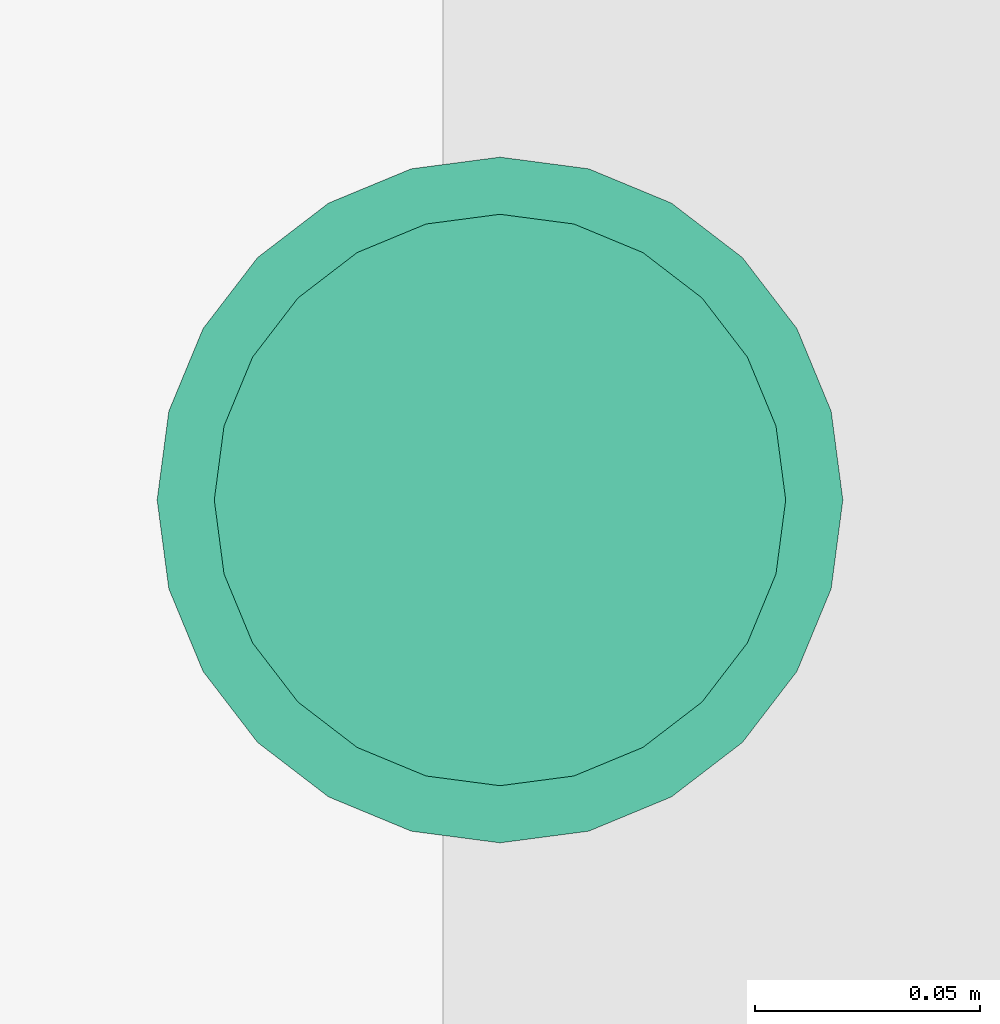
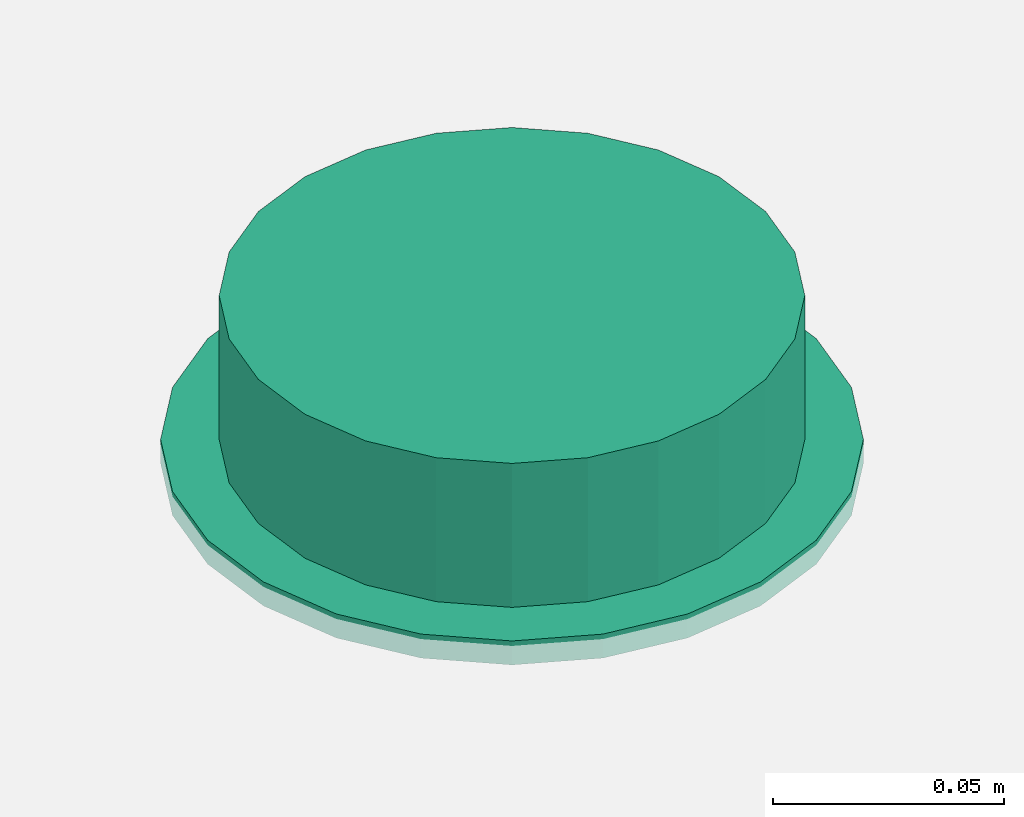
# One storey, part 39 of 81: 1 flow terminal.
"""IFC2X3 building model written with IfcOpenShell, lengths in feet."""

from ifc_helpers import new_model, entity, si_unit, converted_unit, derived_unit, direction, frame, origin, place, context, subcontext, project, spatial, faceted_brep, source, transform, mapped, material, material_list, type_object, type_shapes, element, save


model = new_model("IFC2X3")

# Units and contexts
model_context = context("Model", 3, precision=0.0001, world=origin(), true_north=direction((6.12303176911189e-17, 1.0)))
body_context = subcontext(model_context, "Body", "Model", "MODEL_VIEW")
ifc_project = project(units=[converted_unit("LENGTHUNIT", "FOOT", entity("IfcRatioMeasure", 0.3048), si_unit("LENGTHUNIT", "METRE"), dimensions=[1, 0, 0, 0, 0, 0, 0]), converted_unit("AREAUNIT", "SQUARE FOOT", entity("IfcRatioMeasure", 0.09290304), si_unit("AREAUNIT", "SQUARE_METRE"), dimensions=[2, 0, 0, 0, 0, 0, 0]), converted_unit("VOLUMEUNIT", "CUBIC FOOT", entity("IfcRatioMeasure", 0.028316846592), si_unit("VOLUMEUNIT", "CUBIC_METRE"), dimensions=[3, 0, 0, 0, 0, 0, 0]), converted_unit("PLANEANGLEUNIT", "DEGREE", entity("IfcRatioMeasure", 0.0174532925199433), si_unit("PLANEANGLEUNIT", "RADIAN"), dimensions=[0, 0, 0, 0, 0, 0, 0]), si_unit("MASSUNIT", "GRAM", prefix="KILO"), derived_unit("MASSDENSITYUNIT", [(si_unit("MASSUNIT", "GRAM", prefix="KILO"), 1), (si_unit("LENGTHUNIT", "METRE"), -3)]), derived_unit("MOMENTOFINERTIAUNIT", [(si_unit("LENGTHUNIT", "METRE"), 4)]), si_unit("TIMEUNIT", "SECOND"), si_unit("FREQUENCYUNIT", "HERTZ"), si_unit("THERMODYNAMICTEMPERATUREUNIT", "DEGREE_CELSIUS"), derived_unit("THERMALTRANSMITTANCEUNIT", [(si_unit("MASSUNIT", "GRAM", prefix="KILO"), 1), (si_unit("THERMODYNAMICTEMPERATUREUNIT", "KELVIN"), -1), (si_unit("TIMEUNIT", "SECOND"), -3)]), derived_unit("VOLUMETRICFLOWRATEUNIT", [(si_unit("LENGTHUNIT", "METRE"), 3), (si_unit("TIMEUNIT", "SECOND"), -1)]), si_unit("ELECTRICCURRENTUNIT", "AMPERE"), si_unit("ELECTRICVOLTAGEUNIT", "VOLT"), si_unit("POWERUNIT", "WATT"), si_unit("FORCEUNIT", "NEWTON"), si_unit("ILLUMINANCEUNIT", "LUX"), si_unit("LUMINOUSFLUXUNIT", "LUMEN"), si_unit("LUMINOUSINTENSITYUNIT", "CANDELA"), derived_unit("USERDEFINED", [(si_unit("MASSUNIT", "GRAM", prefix="KILO"), -1), (si_unit("LENGTHUNIT", "METRE"), -2), (si_unit("TIMEUNIT", "SECOND"), 3), (si_unit("LUMINOUSFLUXUNIT", "LUMEN"), 1)]), derived_unit("LINEARVELOCITYUNIT", [(si_unit("LENGTHUNIT", "METRE"), 1), (si_unit("TIMEUNIT", "SECOND"), -1)]), si_unit("PRESSUREUNIT", "PASCAL"), derived_unit("USERDEFINED", [(si_unit("LENGTHUNIT", "METRE"), -2), (si_unit("MASSUNIT", "GRAM", prefix="KILO"), 1), (si_unit("TIMEUNIT", "SECOND"), -2)]), derived_unit("LINEARFORCEUNIT", [(si_unit("MASSUNIT", "GRAM", prefix="KILO"), 1), (si_unit("LENGTHUNIT", "METRE"), 1), (si_unit("TIMEUNIT", "SECOND"), -2), (si_unit("LENGTHUNIT", "METRE"), -1)]), derived_unit("PLANARFORCEUNIT", [(si_unit("MASSUNIT", "GRAM", prefix="KILO"), 1), (si_unit("LENGTHUNIT", "METRE"), 1), (si_unit("TIMEUNIT", "SECOND"), -2), (si_unit("LENGTHUNIT", "METRE"), -2)])], contexts=[model_context])

# Site, building, storey
site_placement = place(None, origin())
site = spatial("IfcSite", under=ifc_project, at=site_placement, Name="Default", CompositionType="ELEMENT")
building_placement = place(site_placement, origin())
building = spatial("IfcBuilding", under=site, at=building_placement, CompositionType="ELEMENT")
storey_placement = place(building_placement, origin())
storey = spatial("IfcBuildingStorey", under=building, at=storey_placement, Name="First floor", CompositionType="ELEMENT", Elevation=0.0)

# Flow terminal
ifc_material_1 = material(Name="Default New Material")
ifc_material_2 = material(Name="Glass, White, High Luminance")
ifc_material_list_1 = material_list([ifc_material_1, ifc_material_2])
ifc_material_list_2 = material_list([ifc_material_1, ifc_material_2])
light_fixture_type = type_object("IfcLightFixtureType", Name="M_Recessed Lamp - Round - LED:Light 2", PredefinedType="NOTDEFINED", material=ifc_material_list_2)
shared_shape = source(origin(), body_context, "Body", "Brep", [
    faceted_brep([(-0.124999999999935, 0.216506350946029, 0.0208333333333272), (-0.176776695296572, 0.176776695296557, 0.0208333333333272), (-0.0833333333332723, 0.144337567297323, 0.0208333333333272), (-0.0431365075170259, 0.160987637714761, 0.0208333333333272), (-0.0647047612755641, 0.241481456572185, 0.0208333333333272), (-0.117851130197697, 0.117851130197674, 0.0208333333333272), (-0.216506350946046, 0.12499999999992, 0.0208333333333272), (-0.144337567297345, 0.0833333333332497, 0.0208333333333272), (-0.160987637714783, 0.0431365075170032, 0.0208333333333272), (-0.241481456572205, 0.0647047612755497, 0.0208333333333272), (-0.166666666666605, 0.0, 0.0208333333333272), (-0.249999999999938, 0.0, 0.0208333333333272), (-0.160987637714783, -0.0431365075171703, 0.0208333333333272), (-0.241481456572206, -0.0647047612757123, 0.0208333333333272), (-0.144337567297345, -0.0833333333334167, 0.0208333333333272), (-0.216506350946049, -0.125000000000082, 0.0208333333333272), (-0.117851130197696, -0.117851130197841, 0.0208333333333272), (-0.176776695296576, -0.176776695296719, 0.0208333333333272), (-0.0833333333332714, -0.14433756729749, 0.0208333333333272), (-0.12499999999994, -0.216506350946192, 0.0208333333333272), (-0.0431365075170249, -0.160987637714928, 0.0208333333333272), (-0.0647047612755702, -0.24148145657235, 0.0208333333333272), (0.0, -0.16666666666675, 0.0208333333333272), (0.0, -0.250000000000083, 0.0208333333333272), (0.0431365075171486, -0.160987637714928, 0.0208333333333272), (0.0647047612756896, -0.241481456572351, 0.0208333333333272), (0.0833333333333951, -0.144337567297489, 0.0208333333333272), (0.12500000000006, -0.216506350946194, 0.0208333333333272), (0.11785113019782, -0.117851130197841, 0.0208333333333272), (0.176776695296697, -0.176776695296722, 0.0208333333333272), (0.144337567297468, -0.0833333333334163, 0.0208333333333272), (0.21650635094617, -0.125000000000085, 0.0208333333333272), (0.241481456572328, -0.0647047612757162, 0.0208333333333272), (0.160987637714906, -0.0431365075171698, 0.0208333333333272), (0.250000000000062, 0.0, 0.0208333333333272), (0.166666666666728, 0.0, 0.0208333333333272), (0.241481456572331, 0.06470476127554, 0.0208333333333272), (0.160987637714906, 0.0431365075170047, 0.0208333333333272), (0.216506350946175, 0.124999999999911, 0.0208333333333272), (0.144337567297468, 0.0833333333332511, 0.0208333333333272), (0.176776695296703, 0.176776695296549, 0.0208333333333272), (0.117851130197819, 0.117851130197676, 0.0208333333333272), (0.125000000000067, 0.216506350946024, 0.0208333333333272), (0.0833333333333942, 0.144337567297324, 0.0208333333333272), (0.0647047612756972, 0.241481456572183, 0.0208333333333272), (0.0431365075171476, 0.160987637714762, 0.0208333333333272), (0.0, 0.249999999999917, 0.0208333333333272), (0.0, 0.166666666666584, 0.0208333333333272), (-0.12499999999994, -0.216506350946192, 0.0), (-0.176776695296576, -0.176776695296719, 0.0), (-0.0833333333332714, -0.14433756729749, 0.0), (-0.0431365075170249, -0.160987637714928, 0.0), (-0.0647047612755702, -0.24148145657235, 0.0), (-0.117851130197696, -0.117851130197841, 0.0), (-0.216506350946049, -0.125000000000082, 0.0), (-0.144337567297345, -0.0833333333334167, 0.0), (-0.160987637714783, -0.0431365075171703, 0.0), (-0.241481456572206, -0.0647047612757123, 0.0), (-0.166666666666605, 0.0, 0.0), (-0.249999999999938, 0.0, 0.0), (-0.160987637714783, 0.0431365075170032, 0.0), (-0.241481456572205, 0.0647047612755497, 0.0), (-0.144337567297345, 0.0833333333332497, 0.0), (-0.216506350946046, 0.12499999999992, 0.0), (-0.117851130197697, 0.117851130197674, 0.0), (-0.176776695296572, 0.176776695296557, 0.0), (-0.0833333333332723, 0.144337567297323, 0.0), (-0.124999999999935, 0.216506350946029, 0.0), (-0.0431365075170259, 0.160987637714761, 0.0), (-0.0647047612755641, 0.241481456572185, 0.0), (0.0, 0.166666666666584, 0.0), (0.0, 0.249999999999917, 0.0), (0.0431365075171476, 0.160987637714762, 0.0), (0.0647047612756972, 0.241481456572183, 0.0), (0.0833333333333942, 0.144337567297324, 0.0), (0.125000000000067, 0.216506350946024, 0.0), (0.117851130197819, 0.117851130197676, 0.0), (0.176776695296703, 0.176776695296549, 0.0), (0.144337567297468, 0.0833333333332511, 0.0), (0.216506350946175, 0.124999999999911, 0.0), (0.241481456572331, 0.06470476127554, 0.0), (0.160987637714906, 0.0431365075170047, 0.0), (0.250000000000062, 0.0, 0.0), (0.166666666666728, 0.0, 0.0), (0.241481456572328, -0.0647047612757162, 0.0), (0.160987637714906, -0.0431365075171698, 0.0), (0.21650635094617, -0.125000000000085, 0.0), (0.144337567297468, -0.0833333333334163, 0.0), (0.176776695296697, -0.176776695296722, 0.0), (0.11785113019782, -0.117851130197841, 0.0), (0.12500000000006, -0.216506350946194, 0.0), (0.0833333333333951, -0.144337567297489, 0.0), (0.0647047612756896, -0.241481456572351, 0.0), (0.0431365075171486, -0.160987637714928, 0.0), (0.0, -0.250000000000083, 0.0), (0.0, -0.16666666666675, 0.0)], [[[0, 1, 2]], [[0, 2, 3]], [[3, 4, 0]], [[2, 1, 5]], [[6, 5, 1]], [[7, 5, 6]], [[8, 7, 6]], [[8, 6, 9]], [[8, 9, 10]], [[10, 9, 11]], [[12, 10, 11]], [[12, 11, 13]], [[14, 12, 13]], [[14, 13, 15]], [[16, 14, 15]], [[15, 17, 16]], [[17, 18, 16]], [[18, 17, 19]], [[18, 19, 20]], [[21, 20, 19]], [[20, 21, 22]], [[22, 21, 23]], [[23, 24, 22]], [[24, 23, 25]], [[24, 25, 26]], [[27, 26, 25]], [[27, 28, 26]], [[27, 29, 28]], [[30, 28, 29]], [[31, 30, 29]], [[32, 30, 31]], [[33, 30, 32]], [[33, 32, 34]], [[34, 35, 33]], [[36, 35, 34]], [[36, 37, 35]], [[37, 36, 38]], [[39, 37, 38]], [[39, 38, 40]], [[39, 40, 41]], [[40, 42, 41]], [[41, 42, 43]], [[43, 42, 44]], [[44, 45, 43]], [[46, 45, 44]], [[4, 47, 46]], [[45, 46, 47]], [[4, 3, 47]], [[48, 49, 50]], [[48, 50, 51]], [[51, 52, 48]], [[50, 49, 53]], [[54, 53, 49]], [[55, 53, 54]], [[56, 55, 54]], [[56, 54, 57]], [[56, 57, 58]], [[58, 57, 59]], [[60, 58, 59]], [[60, 59, 61]], [[62, 60, 61]], [[62, 61, 63]], [[64, 62, 63]], [[63, 65, 64]], [[65, 66, 64]], [[66, 65, 67]], [[66, 67, 68]], [[69, 68, 67]], [[68, 69, 70]], [[70, 69, 71]], [[71, 72, 70]], [[72, 71, 73]], [[72, 73, 74]], [[75, 74, 73]], [[75, 76, 74]], [[75, 77, 76]], [[78, 76, 77]], [[79, 78, 77]], [[80, 78, 79]], [[81, 78, 80]], [[81, 80, 82]], [[82, 83, 81]], [[84, 83, 82]], [[84, 85, 83]], [[85, 84, 86]], [[87, 85, 86]], [[87, 86, 88]], [[87, 88, 89]], [[88, 90, 89]], [[89, 90, 91]], [[91, 90, 92]], [[92, 93, 91]], [[94, 93, 92]], [[52, 95, 94]], [[93, 94, 95]], [[52, 51, 95]], [[10, 58, 60, 8]], [[8, 60, 62, 7]], [[2, 5, 64, 66]], [[62, 64, 5, 7]], [[3, 2, 66, 68]], [[70, 47, 3, 68]], [[45, 72, 74, 43]], [[43, 74, 76, 41]], [[37, 39, 78, 81]], [[76, 78, 39, 41]], [[35, 37, 81, 83]], [[45, 47, 70, 72]], [[35, 83, 85, 33]], [[33, 85, 87, 30]], [[26, 28, 89, 91]], [[87, 89, 28, 30]], [[24, 26, 91, 93]], [[95, 22, 24, 93]], [[20, 51, 50, 18]], [[18, 50, 53, 16]], [[12, 14, 55, 56]], [[53, 55, 14, 16]], [[10, 12, 56, 58]], [[20, 22, 95, 51]], [[57, 13, 11, 59]], [[54, 15, 13, 57]], [[19, 17, 49, 48]], [[54, 49, 17, 15]], [[21, 19, 48, 52]], [[23, 21, 52, 94]], [[92, 25, 23, 94]], [[90, 27, 25, 92]], [[31, 29, 88, 86]], [[90, 88, 29, 27]], [[32, 31, 86, 84]], [[34, 32, 84, 82]], [[80, 36, 34, 82]], [[79, 38, 36, 80]], [[42, 40, 77, 75]], [[79, 77, 40, 38]], [[44, 42, 75, 73]], [[46, 44, 73, 71]], [[69, 4, 46, 71]], [[67, 0, 4, 69]], [[6, 1, 65, 63]], [[67, 65, 1, 0]], [[9, 6, 63, 61]], [[11, 9, 61, 59]]]),
    faceted_brep([(0.0431365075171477, -0.160987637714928, 0.0208333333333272), (0.0833333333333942, -0.14433756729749, 0.0208333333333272), (0.117851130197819, -0.117851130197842, 0.0208333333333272), (0.144337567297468, -0.0833333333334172, 0.0208333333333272), (0.160987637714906, -0.0431365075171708, 0.0208333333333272), (0.166666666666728, 0.0, 0.0208333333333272), (0.160987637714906, 0.0431365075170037, 0.0208333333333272), (0.144337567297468, 0.0833333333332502, 0.0208333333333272), (0.11785113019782, 0.117851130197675, 0.0208333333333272), (0.0833333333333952, 0.144337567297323, 0.0208333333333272), (0.0431365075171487, 0.160987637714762, 0.0208333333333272), (0.0, 0.166666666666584, 0.0208333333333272), (-0.0431365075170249, 0.160987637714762, 0.0208333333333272), (-0.0833333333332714, 0.144337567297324, 0.0208333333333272), (-0.117851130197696, 0.117851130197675, 0.0208333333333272), (-0.144337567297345, 0.0833333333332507, 0.0208333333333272), (-0.160987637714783, 0.0431365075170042, 0.0208333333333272), (-0.166666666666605, 0.0, 0.0208333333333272), (-0.160987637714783, -0.0431365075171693, 0.0208333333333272), (-0.144337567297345, -0.0833333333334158, 0.0208333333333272), (-0.117851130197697, -0.117851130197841, 0.0208333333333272), (-0.0833333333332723, -0.144337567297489, 0.0208333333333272), (-0.0431365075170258, -0.160987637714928, 0.0208333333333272), (0.0, -0.16666666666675, 0.0208333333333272), (0.0431365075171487, 0.160987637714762, 0.0), (0.0833333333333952, 0.144337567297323, 0.0), (0.11785113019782, 0.117851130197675, 0.0), (0.144337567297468, 0.0833333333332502, 0.0), (0.160987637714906, 0.0431365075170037, 0.0), (0.166666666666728, 0.0, 0.0), (0.160987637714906, -0.0431365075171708, 0.0), (0.144337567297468, -0.0833333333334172, 0.0), (0.117851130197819, -0.117851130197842, 0.0), (0.0833333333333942, -0.14433756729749, 0.0), (0.0431365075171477, -0.160987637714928, 0.0), (0.0, -0.16666666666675, 0.0), (-0.0431365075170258, -0.160987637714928, 0.0), (-0.0833333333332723, -0.144337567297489, 0.0), (-0.117851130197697, -0.117851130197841, 0.0), (-0.144337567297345, -0.0833333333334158, 0.0), (-0.160987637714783, -0.0431365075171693, 0.0), (-0.166666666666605, 0.0, 0.0), (-0.160987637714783, 0.0431365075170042, 0.0), (-0.144337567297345, 0.0833333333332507, 0.0), (-0.117851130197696, 0.117851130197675, 0.0), (-0.0833333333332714, 0.144337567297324, 0.0), (-0.0431365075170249, 0.160987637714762, 0.0), (0.0, 0.166666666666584, 0.0)], [[[0, 1, 2, 3, 4, 5, 6, 7, 8, 9, 10, 11, 12, 13, 14, 15, 16, 17, 18, 19, 20, 21, 22, 23]], [[24, 25, 26, 27, 28, 29, 30, 31, 32, 33, 34, 35, 36, 37, 38, 39, 40, 41, 42, 43, 44, 45, 46, 47]], [[40, 18, 17, 41]], [[39, 19, 18, 40]], [[21, 20, 38, 37]], [[39, 38, 20, 19]], [[22, 21, 37, 36]], [[23, 22, 36, 35]], [[34, 0, 23, 35]], [[33, 1, 0, 34]], [[3, 2, 32, 31]], [[33, 32, 2, 1]], [[4, 3, 31, 30]], [[5, 4, 30, 29]], [[28, 6, 5, 29]], [[27, 7, 6, 28]], [[9, 8, 26, 25]], [[27, 26, 8, 7]], [[10, 9, 25, 24]], [[11, 10, 24, 47]], [[46, 12, 11, 47]], [[45, 13, 12, 46]], [[15, 14, 44, 43]], [[45, 44, 14, 13]], [[16, 15, 43, 42]], [[17, 16, 42, 41]]]),
    faceted_brep([(0.0, -0.16666666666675, -0.104166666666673), (0.0431365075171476, -0.160987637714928, -0.104166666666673), (0.0833333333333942, -0.14433756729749, -0.104166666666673), (0.117851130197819, -0.117851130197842, -0.104166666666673), (0.144337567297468, -0.0833333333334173, -0.104166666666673), (0.160987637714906, -0.0431365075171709, -0.104166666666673), (0.166666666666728, 0.0, -0.104166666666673), (0.160987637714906, 0.0431365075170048, -0.104166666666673), (0.144337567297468, 0.0833333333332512, -0.104166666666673), (0.117851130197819, 0.117851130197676, -0.104166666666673), (0.0833333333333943, 0.144337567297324, -0.104166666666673), (0.0431365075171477, 0.160987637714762, -0.104166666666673), (0.0, 0.166666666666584, -0.104166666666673), (-0.0431365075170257, 0.160987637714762, -0.104166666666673), (-0.0833333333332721, 0.144337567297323, -0.104166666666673), (-0.117851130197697, 0.117851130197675, -0.104166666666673), (-0.144337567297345, 0.0833333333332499, -0.104166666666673), (-0.160987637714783, 0.0431365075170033, -0.104166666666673), (-0.166666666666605, 0.0, -0.104166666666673), (-0.160987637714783, -0.0431365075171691, -0.104166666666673), (-0.144337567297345, -0.0833333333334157, -0.104166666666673), (-0.117851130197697, -0.11785113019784, -0.104166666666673), (-0.0833333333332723, -0.144337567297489, -0.104166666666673), (-0.0431365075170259, -0.160987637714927, -0.104166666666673), (0.0, 0.20833333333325, -0.125000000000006), (0.0539206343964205, 0.201234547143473, -0.125000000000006), (0.104166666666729, 0.180421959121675, -0.125000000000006), (0.147313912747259, 0.147313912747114, -0.125000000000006), (0.18042195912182, 0.104166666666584, -0.125000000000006), (0.201234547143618, 0.0539206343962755, -0.125000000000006), (0.208333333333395, 0.0, -0.125000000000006), (0.201234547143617, -0.0539206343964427, -0.125000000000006), (0.180421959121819, -0.104166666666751, -0.125000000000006), (0.147313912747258, -0.147313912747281, -0.125000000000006), (0.104166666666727, -0.180421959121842, -0.125000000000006), (0.0539206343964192, -0.201234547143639, -0.125000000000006), (0.0, -0.208333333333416, -0.125000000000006), (-0.0539206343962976, -0.201234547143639, -0.125000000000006), (-0.104166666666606, -0.180421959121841, -0.125000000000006), (-0.147313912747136, -0.14731391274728, -0.125000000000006), (-0.180421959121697, -0.104166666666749, -0.125000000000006), (-0.201234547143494, -0.0539206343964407, -0.125000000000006), (-0.208333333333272, 0.0, -0.125000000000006), (-0.201234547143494, 0.0539206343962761, -0.125000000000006), (-0.180421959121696, 0.104166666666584, -0.125000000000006), (-0.147313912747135, 0.147313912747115, -0.125000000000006), (-0.104166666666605, 0.180421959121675, -0.125000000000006), (-0.0539206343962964, 0.201234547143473, -0.125000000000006), (-0.201234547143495, -0.0539206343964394, -0.104166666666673), (-0.201234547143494, -0.0539206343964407, 0.0), (-0.208333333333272, 0.0, 0.0), (-0.208333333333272, 0.0, -0.104166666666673), (-0.180421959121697, -0.104166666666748, -0.104166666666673), (-0.180421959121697, -0.104166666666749, 0.0), (-0.104166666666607, -0.18042195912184, -0.104166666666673), (-0.104166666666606, -0.180421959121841, 0.0), (-0.147313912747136, -0.14731391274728, 0.0), (-0.147313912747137, -0.147313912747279, -0.104166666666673), (-0.0539206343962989, -0.201234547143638, -0.104166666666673), (-0.0539206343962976, -0.201234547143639, 0.0), (0.0, -0.208333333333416, -0.104166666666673), (0.0, -0.208333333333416, 0.0), (0.053920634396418, -0.201234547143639, -0.104166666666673), (0.0539206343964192, -0.201234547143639, 0.0), (0.104166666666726, -0.180421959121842, -0.104166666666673), (0.104166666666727, -0.180421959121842, 0.0), (0.180421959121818, -0.104166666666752, -0.104166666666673), (0.180421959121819, -0.104166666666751, 0.0), (0.147313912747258, -0.147313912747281, 0.0), (0.147313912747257, -0.147313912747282, -0.104166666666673), (0.201234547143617, -0.0539206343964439, -0.104166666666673), (0.201234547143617, -0.0539206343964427, 0.0), (0.208333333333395, 0.0, -0.104166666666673), (0.208333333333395, 0.0, 0.0), (0.201234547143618, 0.0539206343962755, -0.104166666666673), (0.201234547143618, 0.0539206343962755, 0.0), (0.18042195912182, 0.104166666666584, -0.104166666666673), (0.18042195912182, 0.104166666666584, 0.0), (0.104166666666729, 0.180421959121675, -0.104166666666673), (0.104166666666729, 0.180421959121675, 0.0), (0.147313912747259, 0.147313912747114, 0.0), (0.147313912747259, 0.147313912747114, -0.104166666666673), (0.0539206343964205, 0.201234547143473, -0.104166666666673), (0.0539206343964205, 0.201234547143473, 0.0), (0.0, 0.20833333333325, -0.104166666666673), (0.0, 0.20833333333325, 0.0), (-0.0539206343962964, 0.201234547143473, -0.104166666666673), (-0.0539206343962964, 0.201234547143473, 0.0), (-0.104166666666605, 0.180421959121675, -0.104166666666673), (-0.104166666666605, 0.180421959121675, 0.0), (-0.180421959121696, 0.104166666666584, -0.104166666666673), (-0.180421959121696, 0.104166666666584, 0.0), (-0.147313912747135, 0.147313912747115, 0.0), (-0.147313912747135, 0.147313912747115, -0.104166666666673), (-0.201234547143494, 0.0539206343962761, -0.104166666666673), (-0.201234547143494, 0.0539206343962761, 0.0), (-0.0833333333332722, 0.144337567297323, 0.0), (-0.0431365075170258, 0.160987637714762, 0.0), (-0.117851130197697, 0.117851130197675, 0.0), (-0.144337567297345, 0.0833333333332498, 0.0), (-0.160987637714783, 0.0431365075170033, 0.0), (-0.166666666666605, 0.0, 0.0), (-0.160987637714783, -0.0431365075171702, 0.0), (-0.144337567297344, -0.0833333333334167, 0.0), (-0.117851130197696, -0.117851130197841, 0.0), (-0.0833333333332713, -0.14433756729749, 0.0), (-0.0431365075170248, -0.160987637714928, 0.0), (0.0, -0.16666666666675, 0.0), (0.0431365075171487, -0.160987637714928, 0.0), (0.0833333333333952, -0.144337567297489, 0.0), (0.11785113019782, -0.117851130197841, 0.0), (0.144337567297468, -0.0833333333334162, 0.0), (0.160987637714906, -0.0431365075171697, 0.0), (0.166666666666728, 0.0, 0.0), (0.160987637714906, 0.0431365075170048, 0.0), (0.144337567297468, 0.0833333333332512, 0.0), (0.117851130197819, 0.117851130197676, 0.0), (0.0833333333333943, 0.144337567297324, 0.0), (0.0431365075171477, 0.160987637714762, 0.0), (0.0, 0.166666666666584, 0.0)], [[[0, 1, 2, 3, 4, 5, 6, 7, 8, 9, 10, 11, 12, 13, 14, 15, 16, 17, 18, 19, 20, 21, 22, 23]], [[24, 25, 26, 27, 28, 29, 30, 31, 32, 33, 34, 35, 36, 37, 38, 39, 40, 41, 42, 43, 44, 45, 46, 47]], [[41, 48, 49, 50, 51, 42]], [[40, 52, 53, 49, 48, 41]], [[54, 55, 56, 57, 39, 38]], [[40, 39, 57, 56, 53, 52]], [[58, 59, 55, 54, 38, 37]], [[60, 61, 59, 58, 37, 36]], [[35, 62, 63, 61, 60, 36]], [[34, 64, 65, 63, 62, 35]], [[66, 67, 68, 69, 33, 32]], [[34, 33, 69, 68, 65, 64]], [[70, 71, 67, 66, 32, 31]], [[72, 73, 71, 70, 31, 30]], [[29, 74, 75, 73, 72, 30]], [[28, 76, 77, 75, 74, 29]], [[78, 79, 80, 81, 27, 26]], [[28, 27, 81, 80, 77, 76]], [[82, 83, 79, 78, 26, 25]], [[84, 85, 83, 82, 25, 24]], [[47, 86, 87, 85, 84, 24]], [[46, 88, 89, 87, 86, 47]], [[90, 91, 92, 93, 45, 44]], [[46, 45, 93, 92, 89, 88]], [[94, 95, 91, 90, 44, 43]], [[51, 50, 95, 94, 43, 42]], [[89, 92, 96]], [[89, 96, 97]], [[97, 87, 89]], [[96, 92, 98]], [[91, 98, 92]], [[99, 98, 91]], [[100, 99, 91]], [[100, 91, 95]], [[100, 95, 101]], [[101, 95, 50]], [[102, 101, 50]], [[102, 50, 49]], [[103, 102, 49]], [[103, 49, 53]], [[104, 103, 53]], [[53, 56, 104]], [[56, 105, 104]], [[105, 56, 55]], [[105, 55, 106]], [[59, 106, 55]], [[106, 59, 107]], [[107, 59, 61]], [[61, 108, 107]], [[108, 61, 63]], [[108, 63, 109]], [[65, 109, 63]], [[65, 110, 109]], [[65, 68, 110]], [[111, 110, 68]], [[67, 111, 68]], [[71, 111, 67]], [[112, 111, 71]], [[112, 71, 73]], [[73, 113, 112]], [[75, 113, 73]], [[75, 114, 113]], [[114, 75, 77]], [[115, 114, 77]], [[115, 77, 80]], [[115, 80, 116]], [[80, 79, 116]], [[116, 79, 117]], [[117, 79, 83]], [[83, 118, 117]], [[85, 118, 83]], [[87, 119, 85]], [[85, 119, 118]], [[87, 97, 119]], [[113, 6, 5, 112]], [[112, 5, 4, 111]], [[109, 110, 3, 2]], [[4, 3, 110, 111]], [[108, 109, 2, 1]], [[0, 107, 108, 1]], [[104, 105, 22, 21]], [[23, 22, 105, 106]], [[102, 103, 20, 19]], [[104, 21, 20, 103]], [[102, 19, 18, 101]], [[0, 23, 106, 107]], [[101, 18, 17, 100]], [[100, 17, 16, 99]], [[96, 98, 15, 14]], [[16, 15, 98, 99]], [[97, 96, 14, 13]], [[12, 119, 97, 13]], [[118, 11, 10, 117]], [[117, 10, 9, 116]], [[114, 115, 8, 7]], [[9, 8, 115, 116]], [[113, 114, 7, 6]], [[118, 119, 12, 11]]]),
])
type_shapes(light_fixture_type, [shared_shape])
flow_terminal_placement = place(storey_placement, frame((10.4999989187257, 4.97916666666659, 8.41666666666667), z_axis=(0.0, 0.0, -1.0), x_axis=(1.0, 0.0, 0.0)))
element("IfcFlowTerminal", 1, at=flow_terminal_placement, inside=storey, type_object=light_fixture_type, material=ifc_material_list_1, Name="M_Recessed Lamp - Round - LED:Light 2", ObjectType="M_Recessed Lamp - Round - LED:Light 2", context=body_context, shape_type="MappedRepresentation", body=[
    mapped(shared_shape, transform((0.0, 0.0, 0.0), scale=1.0)),
])

save(model, "model.ifc")
